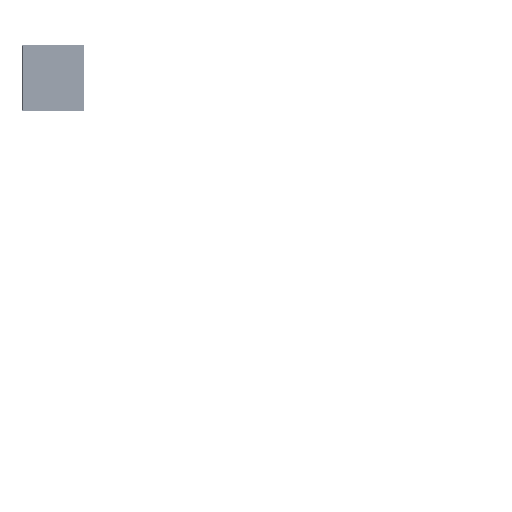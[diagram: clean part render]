
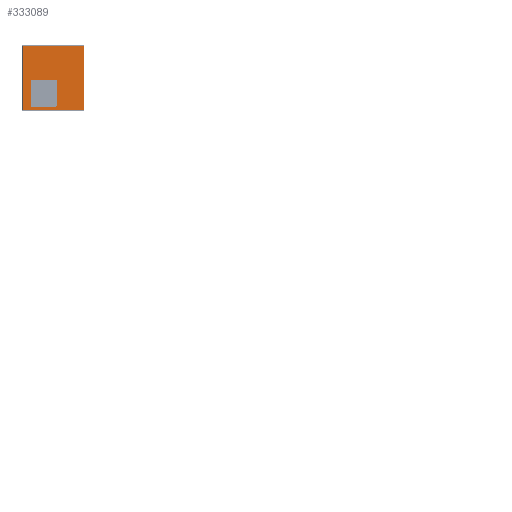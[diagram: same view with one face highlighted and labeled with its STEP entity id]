
A CAD part, top view. The second image highlights one B-rep face of the part: STEP entity #333089.
In plain terms, the highlighted planar face has unit normal (0, 0, 1) as drawn and (0, 1, 0) by its records, which use the part's own axes.
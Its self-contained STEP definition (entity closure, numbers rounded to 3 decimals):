
#329233=DIRECTION('',(0.,0.,1.));
#329234=VECTOR('',#329233,38.06);
#329235=CARTESIAN_POINT('',(18.03,0.2,-19.03));
#329236=LINE('',#329235,#329234);
#330143=DIRECTION('',(1.,0.,0.));
#330144=VECTOR('',#330143,36.06);
#330145=CARTESIAN_POINT('',(-18.03,0.2,-19.03));
#330146=LINE('',#330145,#330144);
#330173=DIRECTION('',(1.,0.,0.));
#330174=VECTOR('',#330173,14.6);
#330175=CARTESIAN_POINT('',(-12.83,0.2,1.33));
#330176=LINE('',#330175,#330174);
#330180=DIRECTION('',(0.,0.,-1.));
#330181=VECTOR('',#330180,14.6);
#330182=CARTESIAN_POINT('',(-13.33,0.2,16.43));
#330183=LINE('',#330182,#330181);
#330187=DIRECTION('',(-1.,0.,0.));
#330188=VECTOR('',#330187,14.6);
#330189=CARTESIAN_POINT('',(1.77,0.2,16.93));
#330190=LINE('',#330189,#330188);
#330194=DIRECTION('',(0.,0.,1.));
#330195=VECTOR('',#330194,14.6);
#330196=CARTESIAN_POINT('',(2.27,0.2,1.83));
#330197=LINE('',#330196,#330195);
#330201=DIRECTION('',(-1.,0.,0.));
#330202=VECTOR('',#330201,36.06);
#330203=CARTESIAN_POINT('',(18.03,0.2,19.03));
#330204=LINE('',#330203,#330202);
#330496=DIRECTION('',(0.,0.,-1.));
#330497=VECTOR('',#330496,38.06);
#330498=CARTESIAN_POINT('',(-18.03,0.2,19.03));
#330499=LINE('',#330498,#330497);
#330533=CARTESIAN_POINT('',(-12.83,0.2,1.83));
#330534=DIRECTION('',(0.,-1.,0.));
#330535=DIRECTION('',(-1.,0.,0.));
#330536=AXIS2_PLACEMENT_3D('',#330533,#330534,#330535);
#330563=CARTESIAN_POINT('',(-12.83,0.2,16.43));
#330564=DIRECTION('',(0.,-1.,0.));
#330565=DIRECTION('',(0.,0.,1.));
#330566=AXIS2_PLACEMENT_3D('',#330563,#330564,#330565);
#330593=CARTESIAN_POINT('',(1.77,0.2,16.43));
#330594=DIRECTION('',(0.,-1.,0.));
#330595=DIRECTION('',(1.,0.,0.));
#330596=AXIS2_PLACEMENT_3D('',#330593,#330594,#330595);
#330623=CARTESIAN_POINT('',(1.77,0.2,1.83));
#330624=DIRECTION('',(0.,-1.,0.));
#330625=DIRECTION('',(0.,0.,-1.));
#330626=AXIS2_PLACEMENT_3D('',#330623,#330624,#330625);
#330943=CARTESIAN_POINT('',(-18.03,0.2,-19.03));
#330944=VERTEX_POINT('',#330943);
#330945=CARTESIAN_POINT('',(-18.03,0.2,19.03));
#330946=VERTEX_POINT('',#330945);
#330955=CARTESIAN_POINT('',(18.03,0.2,19.03));
#330956=VERTEX_POINT('',#330955);
#330957=CARTESIAN_POINT('',(18.03,0.2,-19.03));
#330958=VERTEX_POINT('',#330957);
#331248=CARTESIAN_POINT('',(-13.33,0.2,16.43));
#331250=VERTEX_POINT('',#331248);
#331252=CARTESIAN_POINT('',(-12.83,0.2,16.93));
#331254=VERTEX_POINT('',#331252);
#331256=CARTESIAN_POINT('',(-12.83,0.2,1.33));
#331258=VERTEX_POINT('',#331256);
#331260=CARTESIAN_POINT('',(-13.33,0.2,1.83));
#331262=VERTEX_POINT('',#331260);
#331264=CARTESIAN_POINT('',(2.27,0.2,1.83));
#331266=VERTEX_POINT('',#331264);
#331268=CARTESIAN_POINT('',(1.77,0.2,1.33));
#331270=VERTEX_POINT('',#331268);
#331272=CARTESIAN_POINT('',(1.77,0.2,16.93));
#331274=VERTEX_POINT('',#331272);
#331276=CARTESIAN_POINT('',(2.27,0.2,16.43));
#331278=VERTEX_POINT('',#331276);
#333058=CARTESIAN_POINT('',(0.,0.2,0.));
#333059=DIRECTION('',(0.,1.,0.));
#333060=DIRECTION('',(1.,0.,0.));
#333061=AXIS2_PLACEMENT_3D('',#333058,#333059,#333060);
#333062=PLANE('',#333061);
#333064=ORIENTED_EDGE('',*,*,#333063,.T.);
#333066=ORIENTED_EDGE('',*,*,#333065,.T.);
#333067=ORIENTED_EDGE('',*,*,#333042,.T.);
#333068=ORIENTED_EDGE('',*,*,#331910,.T.);
#333069=EDGE_LOOP('',(#333064,#333066,#333067,#333068));
#333070=FACE_OUTER_BOUND('',#333069,.F.);
#333072=ORIENTED_EDGE('',*,*,#333071,.F.);
#333074=ORIENTED_EDGE('',*,*,#333073,.F.);
#333076=ORIENTED_EDGE('',*,*,#333075,.F.);
#333078=ORIENTED_EDGE('',*,*,#333077,.F.);
#333080=ORIENTED_EDGE('',*,*,#333079,.F.);
#333082=ORIENTED_EDGE('',*,*,#333081,.F.);
#333084=ORIENTED_EDGE('',*,*,#333083,.F.);
#333086=ORIENTED_EDGE('',*,*,#333085,.F.);
#333087=EDGE_LOOP('',(#333072,#333074,#333076,#333078,#333080,#333082,#333084,
#333086));
#333088=FACE_BOUND('',#333087,.F.);
#330537=CIRCLE('',#330536,0.5);
#330567=CIRCLE('',#330566,0.5);
#330597=CIRCLE('',#330596,0.5);
#330627=CIRCLE('',#330626,0.5);
#331910=EDGE_CURVE('',#330958,#330956,#329236,.T.);
#333042=EDGE_CURVE('',#330944,#330958,#330146,.T.);
#333063=EDGE_CURVE('',#330956,#330946,#330204,.T.);
#333065=EDGE_CURVE('',#330946,#330944,#330499,.T.);
#333071=EDGE_CURVE('',#331258,#331270,#330176,.T.);
#333073=EDGE_CURVE('',#331262,#331258,#330537,.T.);
#333075=EDGE_CURVE('',#331250,#331262,#330183,.T.);
#333077=EDGE_CURVE('',#331254,#331250,#330567,.T.);
#333079=EDGE_CURVE('',#331274,#331254,#330190,.T.);
#333081=EDGE_CURVE('',#331278,#331274,#330597,.T.);
#333083=EDGE_CURVE('',#331266,#331278,#330197,.T.);
#333085=EDGE_CURVE('',#331270,#331266,#330627,.T.);
#333089=ADVANCED_FACE('',(#333070,#333088),#333062,.T.);
